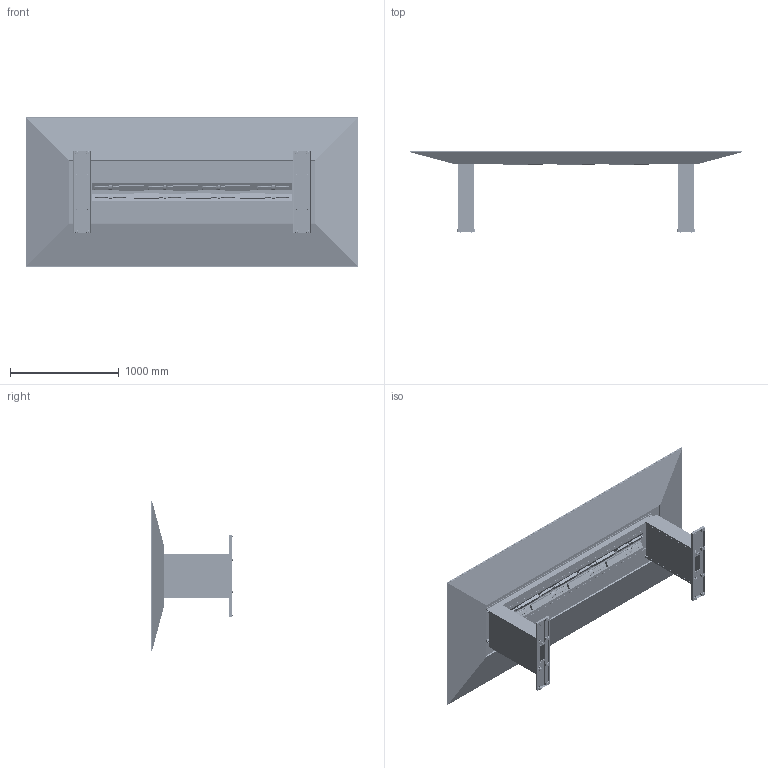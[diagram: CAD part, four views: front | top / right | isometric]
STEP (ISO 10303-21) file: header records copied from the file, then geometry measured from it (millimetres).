
FILE_DESCRIPTION(/* description */ ('','CAx-IF Rec.Pracs.---Representation and Presentation of Product Manufacturing Information (PMI)---4.0---2014-10-13'),/* implementation_level */ '2;1');
FILE_NAME(/* name */ 'AERO^TA5.stp',/* time_stamp */ '2024-12-05T17:17:44-05:00',/* author */ ('mbowman'),/* organization */ (''),/* preprocessor_version */ 'ST-DEVELOPER v19.2',/* originating_system */ 'Autodesk Inventor 2023',/* authorisation */ '');
FILE_SCHEMA (('TECHNICAL_DATA_PACKAGING','AP242_MANAGED_MODEL_BASED_3D_ENGINEERING_MIM_LF { 1 0 10303 442 1 1 4 }'));
Products named in the file (58): AERO^TABLE 5_54120 CTR TROUGH-SOLID ASSEMBLY; H-QTRGE-84; _AMC-611V--NEW; H-QFTC642U-1; H-QTFC634^FRAME; H-QTFC624^TOP^26613; H-QTFC624-NEW^BTM; QDESIGN-BASE-VER01-END PNL - LFT; QDESIGN-BASE-VER01-BCK PNL; QDESIGN-BASE-VER01-END PNL - RHT; QDESIGN-BASE-VER01-DOOR; QDESIGN-BASE-VER01-DOOR PNL; QDESIGN-BASE-VER01-DOOR PNL-VEN VER; QDESIGN-BASE-VER01-DOOR PNL-VEN VER_1; QDESIGN-BASE-VER01-DOOR PNL-VEN HOR; QDESIGN-BASE-VER01-DOOR PNL-VEN HOR_1; Z-CLIP 25in THK - (HL-131); H-BRUSH480SD-14; H-BRUSH1.60D-14; H-BRUSH1.60D^Sealeze brush 2in-14; H-BRUSH1.60D^Sealeze Brush Strip-edge-8.5; _AMC-611^DOOR PNL STOP; 30 table base; H-QCTB30-SS; H-QFTB30; _AMC-630-AL^BASE FRAME; _AMC-630-AL^BASE FRAME PLT; _AMC-630-AL^BASE FRAME 02; H-COD-GLIDE2; AERO^TABLE 5_54120 CTR TROUGH-PARTS SOLID; AERO^TABLE 5_54120 CTR TROUGH-MOD TROUGH; AERO^TABLE 5_54120 CTR TROUGH-POWER LID; AERO^TABLE 5_54120 CTR TROUGH-POWER LID HINGE SOLID; surface_hinge; surface_hinge_1; surface_hinge_2; surface_hinge_3; BYRNE 4 TRAC-2 POWER; BYRNE 4 TRAC-2 USB; BYRNE 4 TRAC-MM CONNECTOR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
Assembly tree (224 placements, depth 4):
  AERO^TABLE 5_54120 CTR TROUGH-SOLID ASSEMBLY
    H-QTRGE-84  x2
    _AMC-611V--NEW  x2
      H-QFTC642U-1
        H-QTFC634^FRAME
        H-QTFC624^TOP^26613
        H-QTFC624-NEW^BTM
      QDESIGN-BASE-VER01-END PNL - LFT
      QDESIGN-BASE-VER01-BCK PNL
      QDESIGN-BASE-VER01-END PNL - RHT
      QDESIGN-BASE-VER01-DOOR
        QDESIGN-BASE-VER01-DOOR PNL
        QDESIGN-BASE-VER01-DOOR PNL-VEN VER
        QDESIGN-BASE-VER01-DOOR PNL-VEN VER_1
        QDESIGN-BASE-VER01-DOOR PNL-VEN HOR
        QDESIGN-BASE-VER01-DOOR PNL-VEN HOR_1
      Z-CLIP 25in THK - (HL-131)
      H-BRUSH480SD-14
      H-BRUSH1.60D-14
        H-BRUSH1.60D^Sealeze brush 2in-14
        H-BRUSH1.60D^Sealeze Brush Strip-edge-8.5
      _AMC-611^DOOR PNL STOP
    30 table base  x2
      H-QCTB30-SS
      H-QFTB30
        _AMC-630-AL^BASE FRAME  x2
        _AMC-630-AL^BASE FRAME 02  x8
        _AMC-630-AL^BASE FRAME PLT  x2
      H-COD-GLIDE2
    AERO^TABLE 5_54120 CTR TROUGH-PARTS SOLID
    AERO^TABLE 5_54120 CTR TROUGH-MOD TROUGH
    AERO^TABLE 5_54120 CTR TROUGH-POWER LID  x2
    AERO^TABLE 5_54120 CTR TROUGH-POWER LID HINGE SOLID
    surface_hinge
      base_door_side
      base_frame_side
      Part3^surface_hinge
      Part1^surface_hinge
      Part4^surface_hinge
      Part5^surface_hinge
      pin_long  x5
      pin_longer  x2
      Part6^surface_hinge
      spring_bigger
      spring_smaller
    surface_hinge_1
      base_door_side
      base_frame_side
      Part3^surface_hinge
      Part1^surface_hinge
      Part4^surface_hinge
      Part5^surface_hinge
      pin_long  x5
      pin_longer  x2
      Part6^surface_hinge
      spring_bigger
      spring_smaller
    surface_hinge_2
      base_door_side
      base_frame_side
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Bounding box: 3048 x 755.65 x 1371.6 mm (x, y, z)
Volume: 179775539.6 mm3; surface area: 26005019.7 mm2
Topology: 283 solids, 289 shells, 12025 faces, 31182 edges, 20436 vertices
Faces by surface type: plane 8611, cylinder 2554, bspline 544, torus 216, sphere 80, cone 20
Full cylindrical faces by diameter (mm): 2.93 x304, 3.556 x2, 4.11 x32, 4.762 x36, 4.89 x56, 4.978 x16, 5.105 x22, 6.35 x16, 7.144 x16, 7.938 x100, 9 x16, 10 x8, 12.7 x18, 28.575 x16
Entity records: 72205 total; most frequent: CARTESIAN_POINT 17942, DIRECTION 10390, ORIENTED_EDGE 9476, EDGE_CURVE 4738, LINE 3674, VECTOR 3674, AXIS2_PLACEMENT_3D 3358, VERTEX_POINT 3113
